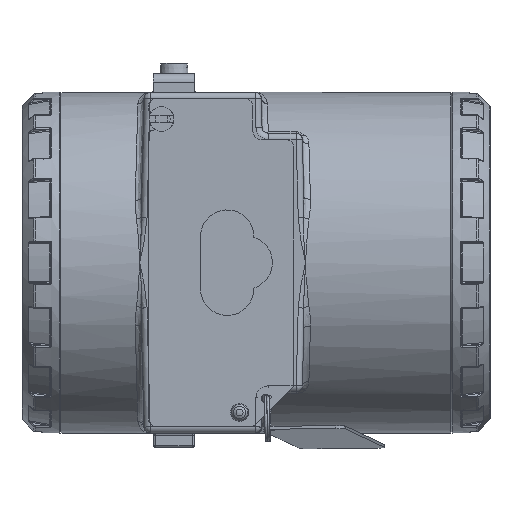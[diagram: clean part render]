
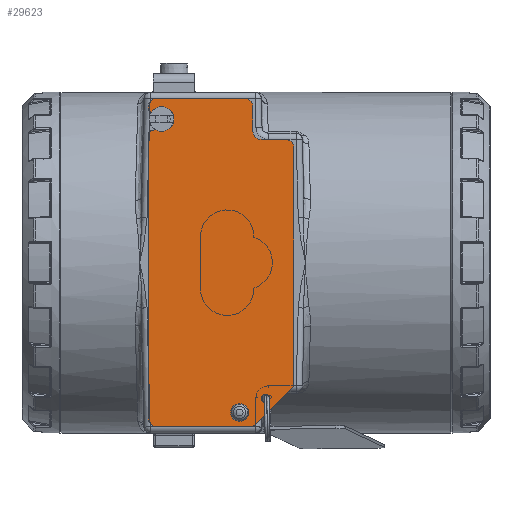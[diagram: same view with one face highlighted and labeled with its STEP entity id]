
A CAD part, left-side view. The second image highlights one B-rep face of the part: STEP entity #29623.
In plain terms, the highlighted planar face has unit normal (-1, 0, 0) as drawn and (0, 0, 1) by its records, which use the part's own axes.
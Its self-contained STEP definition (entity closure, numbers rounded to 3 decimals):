
#2742=FACE_BOUND('',#8753,.T.);
#2743=FACE_BOUND('',#8754,.T.);
#2968=PLANE('',#32799);
#3809=LINE('',#56196,#4952);
#3816=LINE('',#56227,#4959);
#3828=LINE('',#56268,#4971);
#3832=LINE('',#56278,#4975);
#3835=LINE('',#56286,#4978);
#3837=LINE('',#56292,#4980);
#3840=LINE('',#56300,#4983);
#3842=LINE('',#56306,#4985);
#3844=LINE('',#56313,#4987);
#3846=LINE('',#56318,#4989);
#4952=VECTOR('',#38798,10.);
#4959=VECTOR('',#38829,10.);
#4971=VECTOR('',#38865,10.);
#4975=VECTOR('',#38875,10.);
#4978=VECTOR('',#38884,10.);
#4980=VECTOR('',#38892,10.);
#4983=VECTOR('',#38901,10.);
#4985=VECTOR('',#38909,10.);
#4987=VECTOR('',#38917,10.);
#4989=VECTOR('',#38925,10.);
#6757=FACE_OUTER_BOUND('',#8752,.T.);
#8752=EDGE_LOOP('',(#23808,#23809,#23810,#23811,#23812,#23813,#23814,#23815,
#23816,#23817,#23818,#23819,#23820,#23821,#23822,#23823,#23824,#23825,#23826,
#23827));
#8753=EDGE_LOOP('',(#23828,#23829));
#8754=EDGE_LOOP('',(#23830,#23831));
#10734=CIRCLE('',#32752,2.);
#10735=CIRCLE('',#32755,1.);
#10736=CIRCLE('',#32756,1.);
#10738=CIRCLE('',#32759,1.35);
#10739=CIRCLE('',#32760,1.35);
#10741=CIRCLE('',#32763,1.);
#10751=CIRCLE('',#32776,1.);
#10752=CIRCLE('',#32779,2.);
#10753=CIRCLE('',#32782,2.);
#10754=CIRCLE('',#32785,2.);
#10755=CIRCLE('',#32788,2.);
#10756=CIRCLE('',#32791,2.);
#10757=CIRCLE('',#32794,2.);
#10758=CIRCLE('',#32797,2.1);
#13343=VERTEX_POINT('',#56186);
#13344=VERTEX_POINT('',#56188);
#13346=VERTEX_POINT('',#56194);
#13347=VERTEX_POINT('',#56198);
#13348=VERTEX_POINT('',#56199);
#13350=VERTEX_POINT('',#56206);
#13351=VERTEX_POINT('',#56207);
#13353=VERTEX_POINT('',#56214);
#13354=VERTEX_POINT('',#56215);
#13358=VERTEX_POINT('',#56225);
#13373=VERTEX_POINT('',#56260);
#13374=VERTEX_POINT('',#56261);
#13375=VERTEX_POINT('',#56266);
#13376=VERTEX_POINT('',#56270);
#13377=VERTEX_POINT('',#56271);
#13378=VERTEX_POINT('',#56276);
#13379=VERTEX_POINT('',#56280);
#13380=VERTEX_POINT('',#56284);
#13381=VERTEX_POINT('',#56288);
#13382=VERTEX_POINT('',#56294);
#13383=VERTEX_POINT('',#56298);
#13384=VERTEX_POINT('',#56302);
#13385=VERTEX_POINT('',#56308);
#13386=VERTEX_POINT('',#56312);
#16926=EDGE_CURVE('',#13343,#13344,#10734,.T.);
#16930=EDGE_CURVE('',#13346,#13343,#3809,.T.);
#16931=EDGE_CURVE('',#13347,#13348,#10735,.T.);
#16932=EDGE_CURVE('',#13348,#13347,#10736,.T.);
#16935=EDGE_CURVE('',#13350,#13351,#10738,.T.);
#16936=EDGE_CURVE('',#13351,#13350,#10739,.T.);
#16939=EDGE_CURVE('',#13353,#13354,#10741,.T.);
#16945=EDGE_CURVE('',#13358,#13353,#3816,.T.);
#16962=EDGE_CURVE('',#13373,#13374,#10751,.T.);
#16966=EDGE_CURVE('',#13375,#13373,#3828,.T.);
#16967=EDGE_CURVE('',#13376,#13377,#10752,.T.);
#16971=EDGE_CURVE('',#13378,#13376,#3832,.T.);
#16972=EDGE_CURVE('',#13379,#13378,#10753,.T.);
#16975=EDGE_CURVE('',#13380,#13379,#3835,.T.);
#16976=EDGE_CURVE('',#13381,#13380,#10754,.T.);
#16978=EDGE_CURVE('',#13344,#13381,#3837,.T.);
#16979=EDGE_CURVE('',#13382,#13346,#10755,.T.);
#16982=EDGE_CURVE('',#13383,#13382,#3840,.T.);
#16983=EDGE_CURVE('',#13384,#13383,#10756,.T.);
#16985=EDGE_CURVE('',#13354,#13384,#3842,.T.);
#16986=EDGE_CURVE('',#13385,#13375,#10757,.T.);
#16988=EDGE_CURVE('',#13374,#13386,#3844,.T.);
#16990=EDGE_CURVE('',#13386,#13358,#10758,.T.);
#16991=EDGE_CURVE('',#13377,#13385,#3846,.T.);
#23808=ORIENTED_EDGE('',*,*,#16939,.F.);
#23809=ORIENTED_EDGE('',*,*,#16945,.F.);
#23810=ORIENTED_EDGE('',*,*,#16990,.F.);
#23811=ORIENTED_EDGE('',*,*,#16988,.F.);
#23812=ORIENTED_EDGE('',*,*,#16962,.F.);
#23813=ORIENTED_EDGE('',*,*,#16966,.F.);
#23814=ORIENTED_EDGE('',*,*,#16986,.F.);
#23815=ORIENTED_EDGE('',*,*,#16991,.F.);
#23816=ORIENTED_EDGE('',*,*,#16967,.F.);
#23817=ORIENTED_EDGE('',*,*,#16971,.F.);
#23818=ORIENTED_EDGE('',*,*,#16972,.F.);
#23819=ORIENTED_EDGE('',*,*,#16975,.F.);
#23820=ORIENTED_EDGE('',*,*,#16976,.F.);
#23821=ORIENTED_EDGE('',*,*,#16978,.F.);
#23822=ORIENTED_EDGE('',*,*,#16926,.F.);
#23823=ORIENTED_EDGE('',*,*,#16930,.F.);
#23824=ORIENTED_EDGE('',*,*,#16979,.F.);
#23825=ORIENTED_EDGE('',*,*,#16982,.F.);
#23826=ORIENTED_EDGE('',*,*,#16983,.F.);
#23827=ORIENTED_EDGE('',*,*,#16985,.F.);
#23828=ORIENTED_EDGE('',*,*,#16931,.T.);
#23829=ORIENTED_EDGE('',*,*,#16932,.T.);
#23830=ORIENTED_EDGE('',*,*,#16935,.T.);
#23831=ORIENTED_EDGE('',*,*,#16936,.T.);
#29623=ADVANCED_FACE('',(#6757,#2742,#2743),#2968,.T.);
#32752=AXIS2_PLACEMENT_3D('',#56189,#38791,#38792);
#32755=AXIS2_PLACEMENT_3D('',#56200,#38801,#38802);
#32756=AXIS2_PLACEMENT_3D('',#56201,#38803,#38804);
#32759=AXIS2_PLACEMENT_3D('',#56208,#38810,#38811);
#32760=AXIS2_PLACEMENT_3D('',#56209,#38812,#38813);
#32763=AXIS2_PLACEMENT_3D('',#56216,#38819,#38820);
#32776=AXIS2_PLACEMENT_3D('',#56262,#38858,#38859);
#32779=AXIS2_PLACEMENT_3D('',#56272,#38868,#38869);
#32782=AXIS2_PLACEMENT_3D('',#56281,#38878,#38879);
#32785=AXIS2_PLACEMENT_3D('',#56289,#38887,#38888);
#32788=AXIS2_PLACEMENT_3D('',#56295,#38895,#38896);
#32791=AXIS2_PLACEMENT_3D('',#56303,#38904,#38905);
#32794=AXIS2_PLACEMENT_3D('',#56309,#38912,#38913);
#32797=AXIS2_PLACEMENT_3D('',#56316,#38921,#38922);
#32799=AXIS2_PLACEMENT_3D('',#56319,#38926,#38927);
#38791=DIRECTION('center_axis',(0.,0.,1.));
#38792=DIRECTION('ref_axis',(-0.707,0.707,0.));
#38798=DIRECTION('',(-1.,0.,0.));
#38801=DIRECTION('center_axis',(0.,0.,-1.));
#38802=DIRECTION('ref_axis',(1.,0.,0.));
#38803=DIRECTION('center_axis',(0.,0.,-1.));
#38804=DIRECTION('ref_axis',(1.,0.,0.));
#38810=DIRECTION('center_axis',(0.,0.,-1.));
#38811=DIRECTION('ref_axis',(1.,0.,0.));
#38812=DIRECTION('center_axis',(0.,0.,-1.));
#38813=DIRECTION('ref_axis',(1.,0.,0.));
#38819=DIRECTION('center_axis',(0.,0.,-1.));
#38820=DIRECTION('ref_axis',(-0.793,0.609,0.));
#38829=DIRECTION('',(-0.259,0.966,0.));
#38858=DIRECTION('center_axis',(0.,0.,-1.));
#38859=DIRECTION('ref_axis',(0.609,0.793,0.));
#38865=DIRECTION('',(1.,0.,0.));
#38868=DIRECTION('center_axis',(0.,0.,-1.));
#38869=DIRECTION('ref_axis',(-0.924,-0.383,0.));
#38875=DIRECTION('',(-0.707,0.707,0.));
#38878=DIRECTION('center_axis',(0.,0.,-1.));
#38879=DIRECTION('ref_axis',(-0.383,-0.924,0.));
#38884=DIRECTION('',(-1.,0.,0.));
#38887=DIRECTION('center_axis',(0.,0.,-1.));
#38888=DIRECTION('ref_axis',(0.707,-0.707,0.));
#38892=DIRECTION('',(0.,-1.,0.));
#38895=DIRECTION('center_axis',(0.,0.,-1.));
#38896=DIRECTION('ref_axis',(0.707,-0.707,0.));
#38901=DIRECTION('',(0.,-1.,0.));
#38904=DIRECTION('center_axis',(0.,0.,-1.));
#38905=DIRECTION('ref_axis',(0.707,0.707,0.));
#38909=DIRECTION('',(1.,0.,0.));
#38912=DIRECTION('center_axis',(0.,0.,-1.));
#38913=DIRECTION('ref_axis',(-0.707,0.707,0.));
#38917=DIRECTION('',(0.259,-0.966,0.));
#38921=DIRECTION('center_axis',(0.,0.,1.));
#38922=DIRECTION('ref_axis',(-0.966,-0.259,0.));
#38925=DIRECTION('',(0.,1.,0.));
#38926=DIRECTION('center_axis',(0.,0.,1.));
#38927=DIRECTION('ref_axis',(1.,0.,0.));
#56186=CARTESIAN_POINT('',(32.,-7.75,0.7));
#56188=CARTESIAN_POINT('',(30.,-9.75,0.7));
#56189=CARTESIAN_POINT('Origin',(32.,-9.75,0.7));
#56194=CARTESIAN_POINT('',(38.,-7.75,0.7));
#56196=CARTESIAN_POINT('',(40.,-7.75,0.7));
#56198=CARTESIAN_POINT('',(-32.,-10.75,0.7));
#56199=CARTESIAN_POINT('',(-34.,-10.75,0.7));
#56200=CARTESIAN_POINT('Origin',(-33.,-10.75,0.7));
#56201=CARTESIAN_POINT('Origin',(-33.,-10.75,0.7));
#56206=CARTESIAN_POINT('',(-35.15,-4.5,0.7));
#56207=CARTESIAN_POINT('',(-37.85,-4.5,0.7));
#56208=CARTESIAN_POINT('Origin',(-36.5,-4.5,0.7));
#56209=CARTESIAN_POINT('Origin',(-36.5,-4.5,0.7));
#56214=CARTESIAN_POINT('',(36.641,16.491,0.7));
#56215=CARTESIAN_POINT('',(37.606,17.75,0.7));
#56216=CARTESIAN_POINT('Origin',(37.606,16.75,0.7));
#56225=CARTESIAN_POINT('',(37.028,15.044,0.7));
#56227=CARTESIAN_POINT('',(37.028,15.044,0.7));
#56260=CARTESIAN_POINT('',(31.188,17.75,0.7));
#56261=CARTESIAN_POINT('',(32.154,17.009,0.7));
#56262=CARTESIAN_POINT('Origin',(31.188,16.75,0.7));
#56266=CARTESIAN_POINT('',(-38.,17.75,0.7));
#56268=CARTESIAN_POINT('',(-40.,17.75,0.7));
#56270=CARTESIAN_POINT('',(-39.414,-8.336,0.7));
#56271=CARTESIAN_POINT('',(-40.,-6.922,0.7));
#56272=CARTESIAN_POINT('Origin',(-38.,-6.922,0.7));
#56276=CARTESIAN_POINT('',(-30.586,-17.164,0.7));
#56278=CARTESIAN_POINT('',(-30.,-17.75,0.7));
#56280=CARTESIAN_POINT('',(-29.172,-17.75,0.7));
#56281=CARTESIAN_POINT('Origin',(-29.172,-15.75,0.7));
#56284=CARTESIAN_POINT('',(28.,-17.75,0.7));
#56286=CARTESIAN_POINT('',(30.,-17.75,0.7));
#56288=CARTESIAN_POINT('',(30.,-15.75,0.7));
#56289=CARTESIAN_POINT('Origin',(28.,-15.75,0.7));
#56292=CARTESIAN_POINT('',(30.,-7.75,0.7));
#56294=CARTESIAN_POINT('',(40.,-5.75,0.7));
#56295=CARTESIAN_POINT('Origin',(38.,-5.75,0.7));
#56298=CARTESIAN_POINT('',(40.,15.75,0.7));
#56300=CARTESIAN_POINT('',(40.,17.75,0.7));
#56302=CARTESIAN_POINT('',(38.,17.75,0.7));
#56303=CARTESIAN_POINT('Origin',(38.,15.75,0.7));
#56306=CARTESIAN_POINT('',(36.303,17.75,0.7));
#56308=CARTESIAN_POINT('',(-40.,15.75,0.7));
#56309=CARTESIAN_POINT('Origin',(-38.,15.75,0.7));
#56312=CARTESIAN_POINT('',(32.972,13.956,0.7));
#56313=CARTESIAN_POINT('',(31.955,17.75,0.7));
#56316=CARTESIAN_POINT('Origin',(35.,14.5,0.7));
#56318=CARTESIAN_POINT('',(-40.,-7.75,0.7));
#56319=CARTESIAN_POINT('Origin',(2.007,1.468,0.7));
